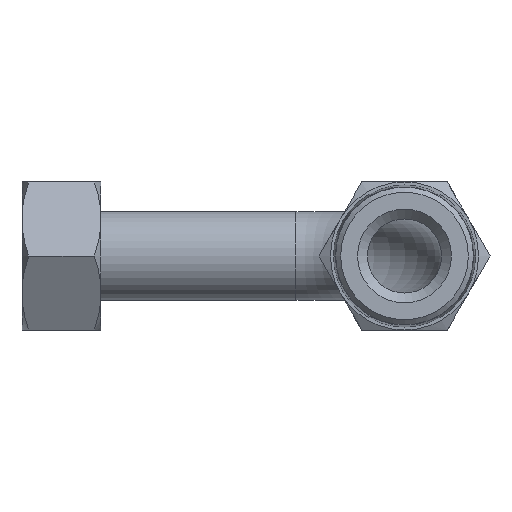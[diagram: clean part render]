
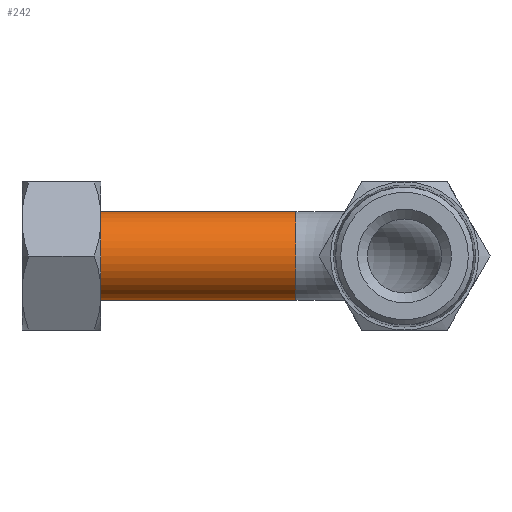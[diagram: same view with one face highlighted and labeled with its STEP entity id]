
A CAD part, front view. The second image highlights one B-rep face of the part: STEP entity #242.
In plain terms, the highlighted cylindrical face has radius 9 mm (diameter 18 mm), a full revolution.
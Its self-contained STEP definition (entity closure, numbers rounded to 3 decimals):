
#211=CARTESIAN_POINT('',(40.0,9.0,0.));
#212=VERTEX_POINT('',#211);
#213=CARTESIAN_POINT('',(40.0,0.0,0.0));
#214=DIRECTION('',(-1.0,0.0,0.0));
#215=DIRECTION('',(0.0,-1.0,0.0));
#216=AXIS2_PLACEMENT_3D('',#213,#214,#215);
#217=CIRCLE('',#216,9.0);
#218=EDGE_CURVE('',#212,#212,#217,.T.);
#223=CARTESIAN_POINT('',(0.0,0.0,0.0));
#224=DIRECTION('',(1.0,0.0,0.0));
#225=DIRECTION('',(0.0,-1.0,0.0));
#226=AXIS2_PLACEMENT_3D('',#223,#224,#225);
#227=CYLINDRICAL_SURFACE('',#226,9.0);
#228=ORIENTED_EDGE('',*,*,#218,.T.);
#229=EDGE_LOOP('',(#228));
#230=FACE_OUTER_BOUND('',#229,.T.);
#231=CARTESIAN_POINT('',(0.0,9.0,0.));
#232=VERTEX_POINT('',#231);
#233=CARTESIAN_POINT('',(0.0,0.0,0.0));
#234=DIRECTION('',(-1.0,0.0,0.0));
#235=DIRECTION('',(0.0,-1.0,0.0));
#236=AXIS2_PLACEMENT_3D('',#233,#234,#235);
#237=CIRCLE('',#236,9.0);
#238=EDGE_CURVE('',#232,#232,#237,.T.);
#239=ORIENTED_EDGE('',*,*,#238,.F.);
#240=EDGE_LOOP('',(#239));
#241=FACE_BOUND('',#240,.T.);
#242=ADVANCED_FACE('',(#230,#241),#227,.T.);
